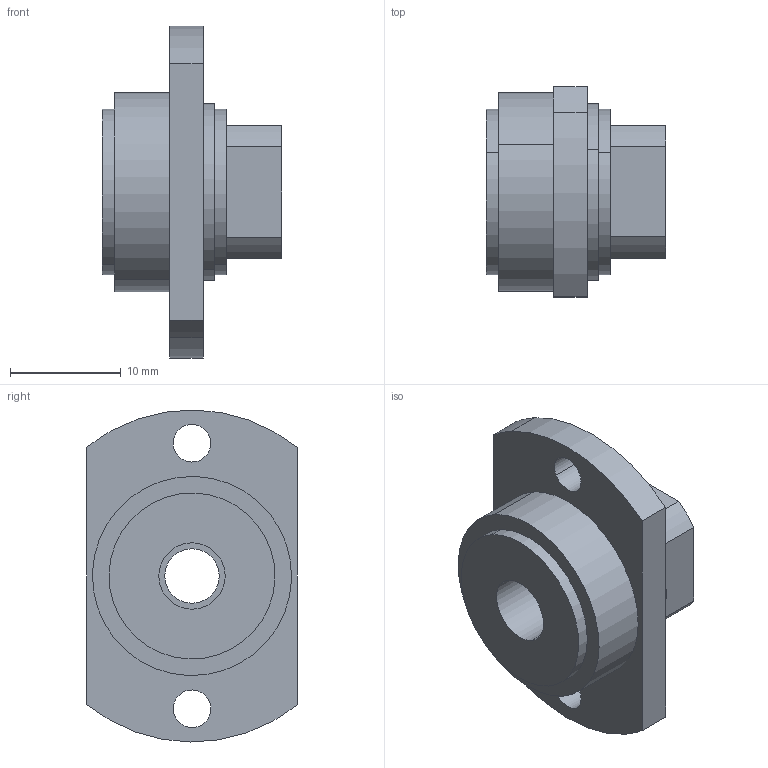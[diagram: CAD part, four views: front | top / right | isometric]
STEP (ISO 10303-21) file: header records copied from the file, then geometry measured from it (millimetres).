
FILE_DESCRIPTION(('CATIA V5 STEP Exchange'),'2;1');
FILE_NAME('C:\Users\aa\Documents\이댈\서포트\완성STP\FK6N.stp','2018-11-15T01:42:40+00:00',('none'),('none'),'CATIA Version 5 Release 20 SP 7 (IN-10)','CATIA V5 STEP AP203','none');
FILE_SCHEMA(('CONFIG_CONTROL_DESIGN'));
Length unit declared in the file: millimetre
Products named in the file (1): FK6N
Assembly tree (2 placements, depth 2):
  FK6N
    #58
    #758
Bounding box: 16.2 x 19 x 30 mm (x, y, z)
Volume: 3671.1 mm3; surface area: 2472.1 mm2
Topology: 2 solids, 2 shells, 38 faces, 90 edges, 60 vertices
Faces by surface type: cylinder 24, plane 14
Entity records: 1100 total; most frequent: ORIENTED_EDGE 180, CARTESIAN_POINT 177, DIRECTION 144, EDGE_CURVE 90, AXIS2_PLACEMENT_3D 75, VERTEX_POINT 60, EDGE_LOOP 50, CIRCLE 48
